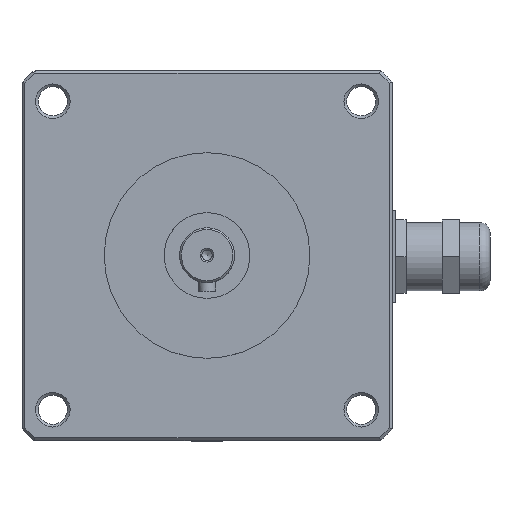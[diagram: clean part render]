
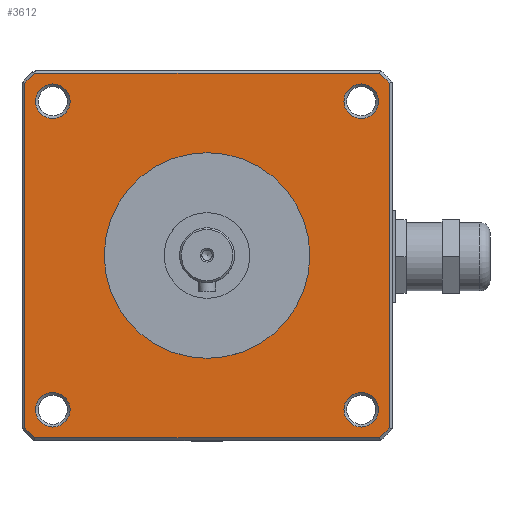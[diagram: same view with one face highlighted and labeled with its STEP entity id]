
A CAD part, top view. The second image highlights one B-rep face of the part: STEP entity #3612.
In plain terms, the highlighted planar face has unit normal (0, 0, 1).
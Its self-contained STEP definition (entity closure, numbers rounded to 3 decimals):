
#2556=CARTESIAN_POINT('',(-86.657,111.674,71.716));
#2557=VERTEX_POINT('',#2556);
#2851=CARTESIAN_POINT('',(-86.657,5.274,71.716));
#2852=VERTEX_POINT('',#2851);
#2853=CARTESIAN_POINT('',(-89.577,8.195,71.716));
#2854=VERTEX_POINT('',#2853);
#2855=CARTESIAN_POINT('',(-36.377,58.474,71.716));
#2856=DIRECTION('',(0.,0.,-1.0));
#2857=DIRECTION('',(-0.73,-0.684,0.));
#2858=AXIS2_PLACEMENT_3D('',#2855,#2856,#2857);
#2859=CIRCLE('',#2858,73.2);
#2860=EDGE_CURVE('',#2852,#2854,#2859,.T.);
#2969=CARTESIAN_POINT('',(-89.577,108.753,71.716));
#2970=VERTEX_POINT('',#2969);
#2971=CARTESIAN_POINT('',(-89.577,8.195,71.716));
#2972=DIRECTION('',(0.0,1.0,0.0));
#2973=VECTOR('',#2972,100.558);
#2974=LINE('',#2971,#2973);
#2975=EDGE_CURVE('',#2854,#2970,#2974,.T.);
#3081=CARTESIAN_POINT('',(-36.377,58.474,71.716));
#3082=DIRECTION('',(0.,0.,-1.0));
#3083=DIRECTION('',(-0.684,0.73,0.));
#3084=AXIS2_PLACEMENT_3D('',#3081,#3082,#3083);
#3085=CIRCLE('',#3084,73.2);
#3086=EDGE_CURVE('',#2970,#2557,#3085,.T.);
#3116=CARTESIAN_POINT('',(13.902,111.674,71.716));
#3117=VERTEX_POINT('',#3116);
#3118=CARTESIAN_POINT('',(-86.657,111.674,71.716));
#3119=DIRECTION('',(1.0,0.0,0.0));
#3120=VECTOR('',#3119,100.558);
#3121=LINE('',#3118,#3120);
#3122=EDGE_CURVE('',#2557,#3117,#3121,.T.);
#3139=CARTESIAN_POINT('',(16.823,108.753,71.716));
#3140=VERTEX_POINT('',#3139);
#3141=CARTESIAN_POINT('',(-36.377,58.474,71.716));
#3142=DIRECTION('',(0.,0.,-1.0));
#3143=DIRECTION('',(0.73,0.684,0.));
#3144=AXIS2_PLACEMENT_3D('',#3141,#3142,#3143);
#3145=CIRCLE('',#3144,73.2);
#3146=EDGE_CURVE('',#3117,#3140,#3145,.T.);
#3206=CARTESIAN_POINT('',(16.823,8.195,71.716));
#3207=VERTEX_POINT('',#3206);
#3208=CARTESIAN_POINT('',(16.823,108.753,71.716));
#3209=DIRECTION('',(0.0,-1.0,0.0));
#3210=VECTOR('',#3209,100.558);
#3211=LINE('',#3208,#3210);
#3212=EDGE_CURVE('',#3140,#3207,#3211,.T.);
#3264=CARTESIAN_POINT('',(13.902,5.274,71.716));
#3265=VERTEX_POINT('',#3264);
#3266=CARTESIAN_POINT('',(-36.377,58.474,71.716));
#3267=DIRECTION('',(0.,0.,-1.0));
#3268=DIRECTION('',(0.684,-0.73,0.));
#3269=AXIS2_PLACEMENT_3D('',#3266,#3267,#3268);
#3270=CIRCLE('',#3269,73.2);
#3271=EDGE_CURVE('',#3207,#3265,#3270,.T.);
#3298=CARTESIAN_POINT('',(13.902,5.274,71.716));
#3299=DIRECTION('',(-1.0,0.0,0.0));
#3300=VECTOR('',#3299,100.558);
#3301=LINE('',#3298,#3300);
#3302=EDGE_CURVE('',#3265,#2852,#3301,.T.);
#3542=CARTESIAN_POINT('',(-36.377,58.474,71.716));
#3543=DIRECTION('',(0.0,0.0,1.0));
#3544=DIRECTION('',(1.0,0.0,0.0));
#3545=AXIS2_PLACEMENT_3D('',#3542,#3543,#3544);
#3546=PLANE('',#3545);
#3547=ORIENTED_EDGE('',*,*,#2860,.F.);
#3548=ORIENTED_EDGE('',*,*,#3302,.F.);
#3549=ORIENTED_EDGE('',*,*,#3271,.F.);
#3550=ORIENTED_EDGE('',*,*,#3212,.F.);
#3551=ORIENTED_EDGE('',*,*,#3146,.F.);
#3552=ORIENTED_EDGE('',*,*,#3122,.F.);
#3553=ORIENTED_EDGE('',*,*,#3086,.F.);
#3554=ORIENTED_EDGE('',*,*,#2975,.F.);
#3555=EDGE_LOOP('',(#3547,#3548,#3549,#3550,#3551,#3552,#3553,#3554));
#3556=FACE_OUTER_BOUND('',#3555,.T.);
#3557=CARTESIAN_POINT('',(13.673,13.474,71.716));
#3558=VERTEX_POINT('',#3557);
#3559=CARTESIAN_POINT('',(8.623,13.474,71.716));
#3560=DIRECTION('',(0.0,0.0,1.0));
#3561=DIRECTION('',(-1.0,0.0,0.0));
#3562=AXIS2_PLACEMENT_3D('',#3559,#3560,#3561);
#3563=CIRCLE('',#3562,5.05);
#3564=EDGE_CURVE('',#3558,#3558,#3563,.T.);
#3565=ORIENTED_EDGE('',*,*,#3564,.F.);
#3566=EDGE_LOOP('',(#3565));
#3567=FACE_BOUND('',#3566,.T.);
#3568=CARTESIAN_POINT('',(13.673,103.474,71.716));
#3569=VERTEX_POINT('',#3568);
#3570=CARTESIAN_POINT('',(8.623,103.474,71.716));
#3571=DIRECTION('',(0.0,0.0,1.0));
#3572=DIRECTION('',(-1.0,0.0,0.0));
#3573=AXIS2_PLACEMENT_3D('',#3570,#3571,#3572);
#3574=CIRCLE('',#3573,5.05);
#3575=EDGE_CURVE('',#3569,#3569,#3574,.T.);
#3576=ORIENTED_EDGE('',*,*,#3575,.F.);
#3577=EDGE_LOOP('',(#3576));
#3578=FACE_BOUND('',#3577,.T.);
#3579=CARTESIAN_POINT('',(-6.377,58.474,71.716));
#3580=VERTEX_POINT('',#3579);
#3581=CARTESIAN_POINT('',(-36.377,58.474,71.716));
#3582=DIRECTION('',(0.0,0.0,-1.0));
#3583=DIRECTION('',(-1.0,0.0,0.0));
#3584=AXIS2_PLACEMENT_3D('',#3581,#3582,#3583);
#3585=CIRCLE('',#3584,30.0);
#3586=EDGE_CURVE('',#3580,#3580,#3585,.T.);
#3587=ORIENTED_EDGE('',*,*,#3586,.T.);
#3588=EDGE_LOOP('',(#3587));
#3589=FACE_BOUND('',#3588,.T.);
#3590=CARTESIAN_POINT('',(-76.327,103.474,71.716));
#3591=VERTEX_POINT('',#3590);
#3592=CARTESIAN_POINT('',(-81.377,103.474,71.716));
#3593=DIRECTION('',(0.0,0.0,1.0));
#3594=DIRECTION('',(-1.0,0.0,0.0));
#3595=AXIS2_PLACEMENT_3D('',#3592,#3593,#3594);
#3596=CIRCLE('',#3595,5.05);
#3597=EDGE_CURVE('',#3591,#3591,#3596,.T.);
#3598=ORIENTED_EDGE('',*,*,#3597,.F.);
#3599=EDGE_LOOP('',(#3598));
#3600=FACE_BOUND('',#3599,.T.);
#3601=CARTESIAN_POINT('',(-76.327,13.474,71.716));
#3602=VERTEX_POINT('',#3601);
#3603=CARTESIAN_POINT('',(-81.377,13.474,71.716));
#3604=DIRECTION('',(0.0,0.0,1.0));
#3605=DIRECTION('',(-1.0,0.0,0.0));
#3606=AXIS2_PLACEMENT_3D('',#3603,#3604,#3605);
#3607=CIRCLE('',#3606,5.05);
#3608=EDGE_CURVE('',#3602,#3602,#3607,.T.);
#3609=ORIENTED_EDGE('',*,*,#3608,.F.);
#3610=EDGE_LOOP('',(#3609));
#3611=FACE_BOUND('',#3610,.T.);
#3612=ADVANCED_FACE('',(#3556,#3567,#3578,#3589,#3600,#3611),#3546,.T.);
